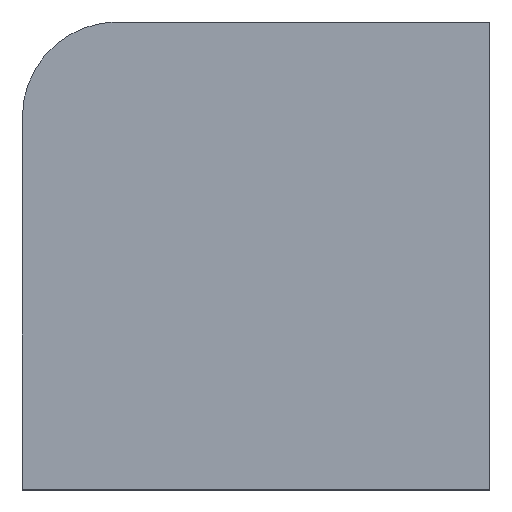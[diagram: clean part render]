
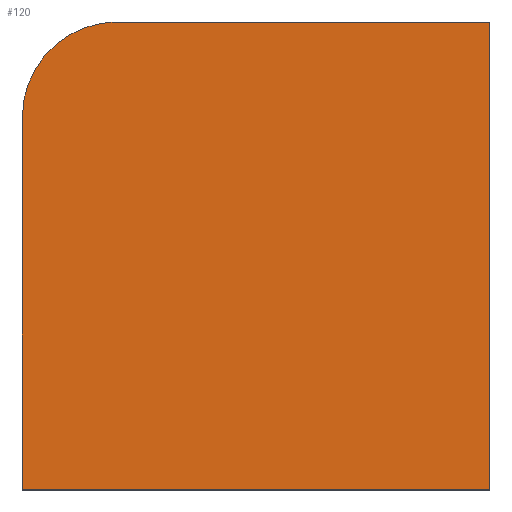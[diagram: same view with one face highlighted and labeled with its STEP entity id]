
A CAD part, top view. The second image highlights one B-rep face of the part: STEP entity #120.
In plain terms, the highlighted planar face has unit normal (0, 0, 1).
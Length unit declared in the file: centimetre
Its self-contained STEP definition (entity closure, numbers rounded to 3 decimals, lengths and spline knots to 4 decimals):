
#14 = ORIENTED_EDGE ( 'NONE', *, *, #111, .T. ) ;
#47 = EDGE_LOOP ( 'NONE', ( #765, #14, #499, #579, #121 ) ) ;
#68 = CARTESIAN_POINT ( 'NONE',  ( 1000., 1000., 1000. ) ) ;
#72 = LINE ( 'NONE', #234, #566 ) ;
#84 = DIRECTION ( 'NONE',  ( 1., 0., 0. ) ) ;
#111 = EDGE_CURVE ( 'NONE', #1153, #798, #667, .T. ) ;
#120 = ADVANCED_FACE ( 'NONE', ( #280 ), #655, .T. ) ;
#121 = ORIENTED_EDGE ( 'NONE', *, *, #394, .T. ) ;
#180 = EDGE_CURVE ( 'NONE', #798, #1086, #1011, .T. ) ;
#234 = CARTESIAN_POINT ( 'NONE',  ( 0., 0., 1000. ) ) ;
#268 = DIRECTION ( 'NONE',  ( -1., 0., 0. ) ) ;
#280 = FACE_OUTER_BOUND ( 'NONE', #47, .T. ) ;
#286 = DIRECTION ( 'NONE',  ( 1., 0., 0. ) ) ;
#295 = AXIS2_PLACEMENT_3D ( 'NONE', #1113, #756, #286 ) ;
#359 = VERTEX_POINT ( 'NONE', #1181 ) ;
#384 = EDGE_CURVE ( 'NONE', #1086, #359, #72, .T. ) ;
#386 = VECTOR ( 'NONE', #268, 100. ) ;
#394 = EDGE_CURVE ( 'NONE', #359, #605, #712, .T. ) ;
#426 = CARTESIAN_POINT ( 'NONE',  ( 0., 797.2118, 1000. ) ) ;
#437 = DIRECTION ( 'NONE',  ( 0., 1., 0. ) ) ;
#484 = EDGE_CURVE ( 'NONE', #605, #1153, #1104, .T. ) ;
#499 = ORIENTED_EDGE ( 'NONE', *, *, #180, .T. ) ;
#544 = VECTOR ( 'NONE', #927, 100. ) ;
#546 = CARTESIAN_POINT ( 'NONE',  ( 0., 1000., 1000. ) ) ;
#551 = CARTESIAN_POINT ( 'NONE',  ( 0., 1000., 1000. ) ) ;
#566 = VECTOR ( 'NONE', #623, 100. ) ;
#579 = ORIENTED_EDGE ( 'NONE', *, *, #384, .T. ) ;
#605 = VERTEX_POINT ( 'NONE', #914 ) ;
#623 = DIRECTION ( 'NONE',  ( 1., 0., 0. ) ) ;
#655 = PLANE ( 'NONE',  #1094 ) ;
#667 = CIRCLE ( 'NONE', #295, 202.7882 ) ;
#707 = VECTOR ( 'NONE', #437, 100. ) ;
#712 = LINE ( 'NONE', #68, #707 ) ;
#756 = DIRECTION ( 'NONE',  ( 0., 0., 1. ) ) ;
#765 = ORIENTED_EDGE ( 'NONE', *, *, #484, .T. ) ;
#798 = VERTEX_POINT ( 'NONE', #426 ) ;
#914 = CARTESIAN_POINT ( 'NONE',  ( 1000., 1000., 1000. ) ) ;
#927 = DIRECTION ( 'NONE',  ( 0., -1., 0. ) ) ;
#929 = CARTESIAN_POINT ( 'NONE',  ( 202.7882, 1000., 1000. ) ) ;
#1005 = CARTESIAN_POINT ( 'NONE',  ( 0., 0., 1000. ) ) ;
#1011 = LINE ( 'NONE', #551, #544 ) ;
#1019 = DIRECTION ( 'NONE',  ( 0., 0., 1. ) ) ;
#1086 = VERTEX_POINT ( 'NONE', #1005 ) ;
#1094 = AXIS2_PLACEMENT_3D ( 'NONE', #1108, #1019, #84 ) ;
#1104 = LINE ( 'NONE', #546, #386 ) ;
#1108 = CARTESIAN_POINT ( 'NONE',  ( 0., 0., 1000. ) ) ;
#1113 = CARTESIAN_POINT ( 'NONE',  ( 202.7882, 797.2118, 1000. ) ) ;
#1153 = VERTEX_POINT ( 'NONE', #929 ) ;
#1181 = CARTESIAN_POINT ( 'NONE',  ( 1000., 0., 1000. ) ) ;
